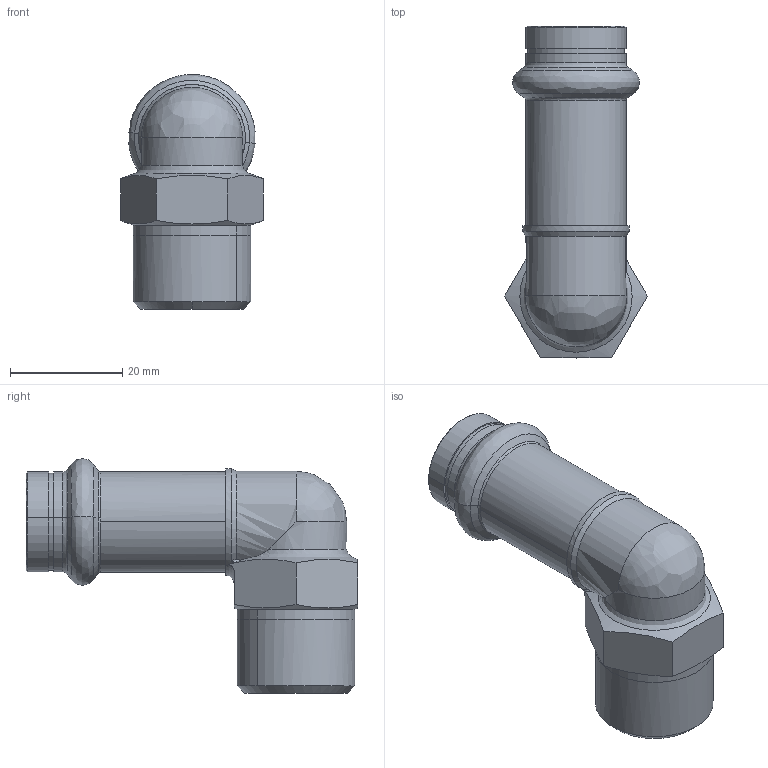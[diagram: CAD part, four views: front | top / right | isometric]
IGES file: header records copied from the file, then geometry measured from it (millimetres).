
Start section: Elysium IGES Interface
Global section: file name: F:\3d modellen sudo\S-Pr VP\SP6092GV\6092GVW1512.igs; native system: CoCreate Modeling 17.00A  17-Jun-2010; preprocessor: CoCreate IGES_3D V2.2; author: Unknown; organization: Unknown; date: 20130124.152341; units: millimetre
Bounding box: 25.4 x 59 x 41.78 mm (x, y, z)
Volume: 10434.9 mm3; surface area: 8817.6 mm2
Topology: 1 solids, 1 shells, 79 faces, 186 edges, 112 vertices
Faces by surface type: bspline 79
